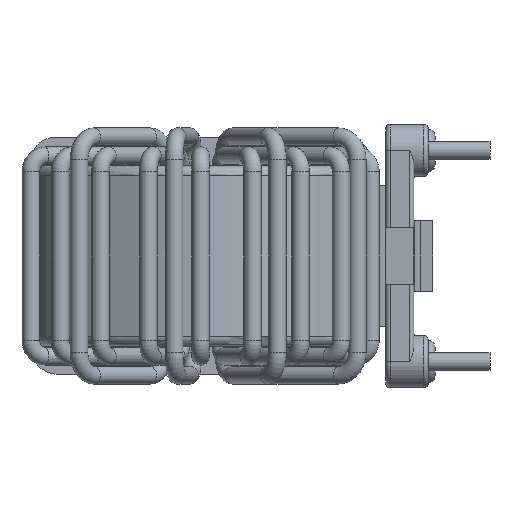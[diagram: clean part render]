
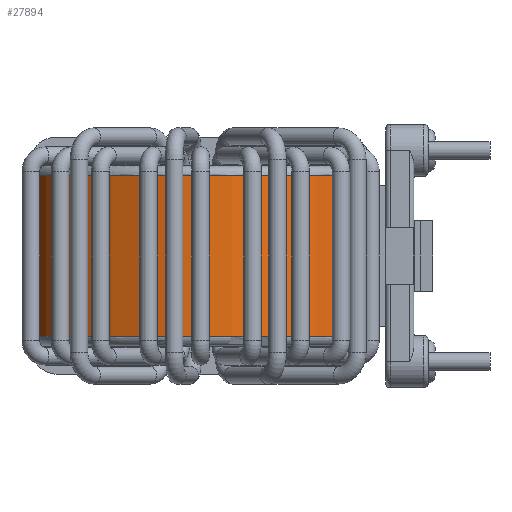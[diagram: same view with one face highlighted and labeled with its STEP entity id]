
A CAD part, left-side view. The second image highlights one B-rep face of the part: STEP entity #27894.
In plain terms, the highlighted cylindrical face has radius 12.7 mm (diameter 25.4 mm), a full revolution.
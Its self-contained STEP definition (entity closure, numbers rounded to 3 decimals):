
#142=FACE_BOUND('',#9081,.T.);
#143=FACE_BOUND('',#9082,.T.);
#4007=LINE('',#49850,#5976);
#4008=LINE('',#49852,#5977);
#4009=LINE('',#49853,#5978);
#4010=LINE('',#49854,#5979);
#4011=LINE('',#49855,#5980);
#5976=VECTOR('',#35847,12.7);
#5977=VECTOR('',#35850,10.);
#5978=VECTOR('',#35851,10.);
#5979=VECTOR('',#35852,10.);
#5980=VECTOR('',#35853,10.);
#6248=CYLINDRICAL_SURFACE('',#29951,12.7);
#7571=FACE_OUTER_BOUND('',#9080,.T.);
#9080=EDGE_LOOP('',(#24391,#24392,#24393,#24394,#24395));
#9081=EDGE_LOOP('',(#24396,#24397,#24398,#24399));
#9082=EDGE_LOOP('',(#24400,#24401,#24402,#24403));
#9930=CIRCLE('',#29191,12.7);
#10166=CIRCLE('',#29917,12.7);
#10170=CIRCLE('',#29922,12.7);
#10172=CIRCLE('',#29925,12.7);
#10176=CIRCLE('',#29930,12.7);
#10183=CIRCLE('',#29952,12.7);
#10184=CIRCLE('',#29953,12.7);
#11489=VERTEX_POINT('',#41879);
#12786=VERTEX_POINT('',#49724);
#12787=VERTEX_POINT('',#49725);
#12791=VERTEX_POINT('',#49736);
#12792=VERTEX_POINT('',#49738);
#12794=VERTEX_POINT('',#49744);
#12795=VERTEX_POINT('',#49745);
#12799=VERTEX_POINT('',#49756);
#12800=VERTEX_POINT('',#49758);
#12830=VERTEX_POINT('',#49847);
#12831=VERTEX_POINT('',#49848);
#14671=EDGE_CURVE('',#11489,#11489,#9930,.T.);
#16665=EDGE_CURVE('',#12786,#12787,#10166,.T.);
#16672=EDGE_CURVE('',#12792,#12791,#10170,.T.);
#16675=EDGE_CURVE('',#12794,#12795,#10172,.T.);
#16682=EDGE_CURVE('',#12800,#12799,#10176,.T.);
#16726=EDGE_CURVE('',#12830,#12831,#10183,.T.);
#16727=EDGE_CURVE('',#12830,#11489,#4007,.T.);
#16728=EDGE_CURVE('',#12831,#12830,#10184,.T.);
#16729=EDGE_CURVE('',#12786,#12791,#4008,.T.);
#16730=EDGE_CURVE('',#12792,#12787,#4009,.T.);
#16731=EDGE_CURVE('',#12800,#12795,#4010,.T.);
#16732=EDGE_CURVE('',#12794,#12799,#4011,.T.);
#24391=ORIENTED_EDGE('',*,*,#16726,.F.);
#24392=ORIENTED_EDGE('',*,*,#16727,.T.);
#24393=ORIENTED_EDGE('',*,*,#14671,.F.);
#24394=ORIENTED_EDGE('',*,*,#16727,.F.);
#24395=ORIENTED_EDGE('',*,*,#16728,.F.);
#24396=ORIENTED_EDGE('',*,*,#16672,.T.);
#24397=ORIENTED_EDGE('',*,*,#16729,.F.);
#24398=ORIENTED_EDGE('',*,*,#16665,.T.);
#24399=ORIENTED_EDGE('',*,*,#16730,.F.);
#24400=ORIENTED_EDGE('',*,*,#16675,.T.);
#24401=ORIENTED_EDGE('',*,*,#16731,.F.);
#24402=ORIENTED_EDGE('',*,*,#16682,.T.);
#24403=ORIENTED_EDGE('',*,*,#16732,.F.);
#27894=ADVANCED_FACE('',(#7571,#142,#143),#6248,.T.);
#29191=AXIS2_PLACEMENT_3D('',#41880,#33103,#33104);
#29917=AXIS2_PLACEMENT_3D('',#49726,#35731,#35732);
#29922=AXIS2_PLACEMENT_3D('',#49739,#35744,#35745);
#29925=AXIS2_PLACEMENT_3D('',#49746,#35751,#35752);
#29930=AXIS2_PLACEMENT_3D('',#49759,#35764,#35765);
#29951=AXIS2_PLACEMENT_3D('',#49846,#35843,#35844);
#29952=AXIS2_PLACEMENT_3D('',#49849,#35845,#35846);
#29953=AXIS2_PLACEMENT_3D('',#49851,#35848,#35849);
#33103=DIRECTION('center_axis',(0.,0.,
-1.));
#33104=DIRECTION('ref_axis',(1.,0.,0.));
#35731=DIRECTION('center_axis',(0.,0.,
-1.));
#35732=DIRECTION('ref_axis',(1.,0.,0.));
#35744=DIRECTION('center_axis',(0.,0.,
1.));
#35745=DIRECTION('ref_axis',(1.,0.,0.));
#35751=DIRECTION('center_axis',(0.,0.,
-1.));
#35752=DIRECTION('ref_axis',(1.,0.,0.));
#35764=DIRECTION('center_axis',(0.,0.,
1.));
#35765=DIRECTION('ref_axis',(1.,0.,0.));
#35843=DIRECTION('center_axis',(0.,0.,
1.));
#35844=DIRECTION('ref_axis',(1.,0.,0.));
#35845=DIRECTION('center_axis',(0.,0.,
1.));
#35846=DIRECTION('ref_axis',(1.,0.,0.));
#35847=DIRECTION('',(0.,0.,-1.));
#35848=DIRECTION('center_axis',(0.,0.,
1.));
#35849=DIRECTION('ref_axis',(1.,0.,0.));
#35850=DIRECTION('',(0.,0.,1.));
#35851=DIRECTION('',(0.,0.,-1.));
#35852=DIRECTION('',(0.,0.,-1.));
#35853=DIRECTION('',(0.,0.,1.));
#41879=CARTESIAN_POINT('',(-12.7,15.15,-5.7));
#41880=CARTESIAN_POINT('Origin',(0.,15.15,-5.7));
#49724=CARTESIAN_POINT('',(4.811,3.396,-5.));
#49725=CARTESIAN_POINT('',(2.886,2.782,-5.));
#49726=CARTESIAN_POINT('Origin',(0.,15.15,-5.));
#49736=CARTESIAN_POINT('',(4.811,3.396,5.));
#49738=CARTESIAN_POINT('',(2.886,2.782,5.));
#49739=CARTESIAN_POINT('Origin',(0.,15.15,5.));
#49744=CARTESIAN_POINT('',(-2.886,2.782,-5.));
#49745=CARTESIAN_POINT('',(-4.811,3.396,-5.));
#49746=CARTESIAN_POINT('Origin',(0.,15.15,-5.));
#49756=CARTESIAN_POINT('',(-2.886,2.782,5.));
#49758=CARTESIAN_POINT('',(-4.811,3.396,5.));
#49759=CARTESIAN_POINT('Origin',(0.,15.15,5.));
#49846=CARTESIAN_POINT('Origin',(0.,15.15,-5.2));
#49847=CARTESIAN_POINT('',(-12.7,15.15,5.7));
#49848=CARTESIAN_POINT('',(12.7,15.15,5.7));
#49849=CARTESIAN_POINT('Origin',(0.,15.15,5.7));
#49850=CARTESIAN_POINT('',(-12.7,15.15,-5.2));
#49851=CARTESIAN_POINT('Origin',(0.,15.15,5.7));
#49852=CARTESIAN_POINT('',(4.811,3.396,-5.2));
#49853=CARTESIAN_POINT('',(2.886,2.782,-5.2));
#49854=CARTESIAN_POINT('',(-4.811,3.396,-5.2));
#49855=CARTESIAN_POINT('',(-2.886,2.782,-5.2));
